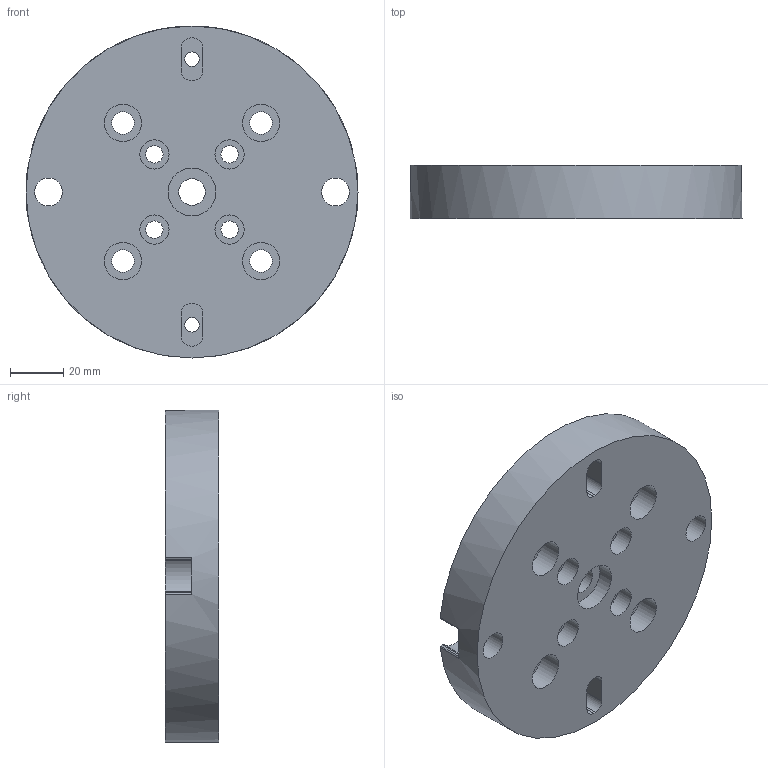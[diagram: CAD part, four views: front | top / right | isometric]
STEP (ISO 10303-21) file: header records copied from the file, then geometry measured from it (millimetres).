
FILE_DESCRIPTION(/* description */ (''),/* implementation_level */ '2;1');
FILE_NAME(/* name */ '',/* time_stamp */ '2023-09-05T10:27:52+08:00',/* author */ (''),/* organization */ (''),/* preprocessor_version */ 'ST-DEVELOPER v11',/* originating_system */ 'SIEMENS PLM Software NX 7.0',/* authorisation */ '');
FILE_SCHEMA (('CONFIG_CONTROL_DESIGN'));
Length unit declared in the file: millimetre
Products named in the file (1): AdmiF4C8gqfo
Bounding box: 125 x 20 x 125 mm (x, y, z)
Volume: 217389 mm3; surface area: 40154.2 mm2
Topology: 1 solids, 1 shells, 88 faces, 202 edges, 137 vertices
Faces by surface type: cylinder 51, plane 37
Full cylindrical faces by diameter (mm): 5.5 x2, 6.5 x4, 8.5 x4, 9 x4, 10 x1, 10.5 x2, 11 x6, 12 x4, 14 x4, 18 x1, 125 x1
Entity records: 2452 total; most frequent: DIRECTION 446, CARTESIAN_POINT 380, ORIENTED_EDGE 322, AXIS2_PLACEMENT_3D 195, EDGE_LOOP 168, EDGE_CURVE 161, FACE_BOUND 134, VERTEX_POINT 129
